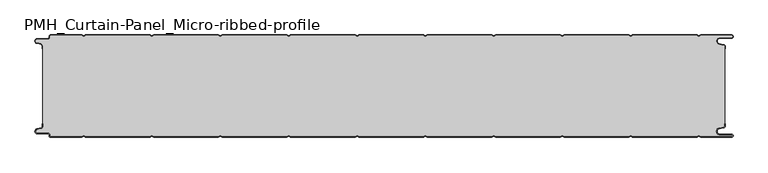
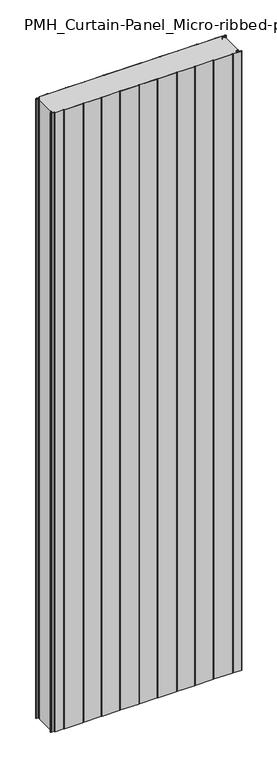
"""IFC4 building model written with IfcOpenShell, lengths in millimetres: plate geometry, PMH_Curtain-Panel_Micro-ribbed-profile : ACH_PMH_Acoustic-Sectioning-Panel_150M."""

from ifc_helpers import new_model, si_unit, point, frame_2d, origin, origin_with_axes, place, context, project, spatial, polyline, circle_curve, trimmed, segment, composite_curve, outline, extrude, source, transform, mapped, element, save


def pmh_curtain_panel_micro_ribbed_profile_c51ca6de(model_context):
    return source(origin(), model_context, "Body", "SweptSolid", [
        extrude(outline(composite_curve([segment(polyline([(-500.0, 15.878557), (-500.0, 20.0), (-499.2, 20.0), (-499.2, 15.878557)]), True, "CONTINUOUS"), segment(trimmed(circle_curve(frame_2d((-502.0, 15.878557)), 2.8), [point((-499.2, 15.878557))], [point((-501.370137, 13.1503208))], False, "CARTESIAN"), True, "CONTINUOUS"), segment(polyline([(-501.370137, 13.1503208), (-507.529863, 11.728236)]), True, "CONTINUOUS"), segment(trimmed(circle_curve(frame_2d((-506.9, 9.0)), 2.8), [point((-507.529863, 11.728236))], [point((-506.9, 6.2))], True, "CARTESIAN"), True, "CONTINUOUS"), segment(polyline([(-506.9, 6.2), (-491.4, 6.2)]), True, "CONTINUOUS"), segment(trimmed(circle_curve(frame_2d((-491.4, 3.4)), 2.8), [point((-491.4, 6.2))], [point((-488.6, 3.4))], False, "CARTESIAN"), True, "CONTINUOUS"), segment(polyline([(-488.6, 3.4), (-488.6, 2.0)]), True, "CONTINUOUS"), segment(trimmed(circle_curve(frame_2d((-487.4, 2.0)), 1.2), [point((-488.6, 2.0))], [point((-487.4, 0.8))], True, "CARTESIAN"), True, "CONTINUOUS"), segment(polyline([(-487.4, 0.8), (-442.3143588, 0.8), (-439.4, 2.482606), (-436.4856412, 0.8), (-342.3143588, 0.8), (-339.4, 2.482606), (-336.4856412, 0.8), (-242.3143588, 0.8), (-239.4, 2.482606), (-236.4856412, 0.8), (-142.3143588, 0.8), (-139.4, 2.482606), (-136.4856412, 0.8), (-42.3143588, 0.8), (-39.4, 2.482606), (-36.4856412, 0.8), (57.6856412, 0.8), (60.6, 2.482606), (63.5143588, 0.8), (157.6856412, 0.8), (160.6, 2.482606), (163.5143588, 0.8), (257.6856412, 0.8), (260.6, 2.482606), (263.5143588, 0.8), (357.6856412, 0.8), (360.6, 2.482606), (363.5143588, 0.8), (457.6856412, 0.8), (460.6, 2.482606), (463.5143588, 0.8), (508.1, 0.8)]), True, "CONTINUOUS"), segment(trimmed(circle_curve(frame_2d((508.1, 2.5)), 1.7), [point((508.1, 0.8))], [point((508.1, 4.2))], True, "CARTESIAN"), True, "CONTINUOUS"), segment(polyline([(508.1, 4.2), (491.1, 4.2)]), True, "CONTINUOUS"), segment(trimmed(circle_curve(frame_2d((491.1, 9.0)), 4.8), [point((491.1, 4.2))], [point((490.2664884, 13.7270771))], False, "CARTESIAN"), True, "CONTINUOUS"), segment(polyline([(490.2664884, 13.7270771), (496.7125669, 14.8636953)]), True, "CONTINUOUS"), segment(trimmed(circle_curve(frame_2d((496.4, 16.6363492)), 1.8), [point((496.7125669, 14.8636953))], [point((498.2, 16.6363492))], True, "CARTESIAN"), True, "CONTINUOUS"), segment(polyline([(498.2, 16.6363492), (498.2, 20.0), (499.0, 20.0), (499.0, 16.6363492)]), True, "CONTINUOUS"), segment(trimmed(circle_curve(frame_2d((496.4, 16.6363492)), 2.6), [point((499.0, 16.6363492))], [point((496.8514855, 14.0758491))], False, "CARTESIAN"), True, "CONTINUOUS"), segment(polyline([(496.8514855, 14.0758491), (490.405407, 12.939231)]), True, "CONTINUOUS"), segment(trimmed(circle_curve(frame_2d((491.1, 9.0)), 4.0), [point((490.405407, 12.939231))], [point((491.1, 5.0))], True, "CARTESIAN"), True, "CONTINUOUS"), segment(polyline([(491.1, 5.0), (508.1, 5.0)]), True, "CONTINUOUS"), segment(trimmed(circle_curve(frame_2d((508.1, 2.5)), 2.5), [point((508.1, 5.0))], [point((508.1, 0.0))], False, "CARTESIAN"), True, "CONTINUOUS"), segment(polyline([(508.1, 0.0), (463.2999995, 0.0), (460.6, 1.5588455), (457.9000005, 0.0), (363.2999995, 0.0), (360.6, 1.5588455), (357.9000005, 0.0), (263.2999995, 0.0), (260.6, 1.5588455), (257.9000005, 0.0), (163.2999995, 0.0), (160.6, 1.5588455), (157.9000005, 0.0), (63.2999995, 0.0), (60.6, 1.5588455), (57.9000005, 0.0), (-36.7000005, 0.0), (-39.4, 1.5588455), (-42.0999995, 0.0), (-136.7000005, 0.0), (-139.4, 1.5588455), (-142.0999995, 0.0), (-236.7000005, 0.0), (-239.4, 1.5588455), (-242.0999995, 0.0), (-336.7000005, 0.0), (-339.4, 1.5588455), (-342.0999995, 0.0), (-436.7000005, 0.0), (-439.4, 1.5588455), (-442.0999995, 0.0), (-487.4, 0.0)]), True, "CONTINUOUS"), segment(trimmed(circle_curve(frame_2d((-487.4, 2.0)), 2.0), [point((-487.4, 0.0))], [point((-489.4, 2.0))], False, "CARTESIAN"), True, "CONTINUOUS"), segment(polyline([(-489.4, 2.0), (-489.4, 3.4)]), True, "CONTINUOUS"), segment(trimmed(circle_curve(frame_2d((-491.4, 3.4)), 2.0), [point((-489.4, 3.4))], [point((-491.4, 5.4))], True, "CARTESIAN"), True, "CONTINUOUS"), segment(polyline([(-491.4, 5.4), (-506.9, 5.4)]), True, "CONTINUOUS"), segment(trimmed(circle_curve(frame_2d((-506.9, 9.0)), 3.6), [point((-506.9, 5.4))], [point((-507.7098239, 12.5077322))], False, "CARTESIAN"), True, "CONTINUOUS"), segment(polyline([(-507.7098239, 12.5077322), (-501.5500979, 13.929817)]), True, "CONTINUOUS"), segment(trimmed(circle_curve(frame_2d((-502.0, 15.878557)), 2.0), [point((-501.5500979, 13.929817))], [point((-500.0, 15.878557))], True, "CARTESIAN"), True, "CONTINUOUS")], self_intersect=False)), origin_with_axes(), (0.0, 0.0, 1.0), 3500.0),
        extrude(outline(composite_curve([segment(trimmed(circle_curve(frame_2d((-502.0, 134.1214426)), 2.8), [point((-499.2, 134.1214426))], [point((-501.370137, 136.8496788))], True, "CARTESIAN"), True, "CONTINUOUS"), segment(polyline([(-501.370137, 136.8496788), (-507.5298631, 138.2717638)]), True, "CONTINUOUS"), segment(trimmed(circle_curve(frame_2d((-506.9, 141.0)), 2.8), [point((-507.5298631, 138.2717638))], [point((-506.9, 143.8))], False, "CARTESIAN"), True, "CONTINUOUS"), segment(polyline([(-506.9, 143.8), (-491.4000001, 143.8)]), True, "CONTINUOUS"), segment(trimmed(circle_curve(frame_2d((-491.4000001, 146.6)), 2.8), [point((-491.4000001, 143.8))], [point((-488.6000001, 146.6))], True, "CARTESIAN"), True, "CONTINUOUS"), segment(polyline([(-488.6000001, 146.6), (-488.6000001, 148.0)]), True, "CONTINUOUS"), segment(trimmed(circle_curve(frame_2d((-487.4000001, 148.0)), 1.2), [point((-488.6000001, 148.0))], [point((-487.4000001, 149.2))], False, "CARTESIAN"), True, "CONTINUOUS"), segment(polyline([(-487.4000001, 149.2), (-442.3143589, 149.2), (-439.4000001, 147.517394), (-436.4856412, 149.2), (-342.3143589, 149.2), (-339.4000001, 147.517394), (-336.4856412, 149.2), (-242.3143589, 149.2), (-239.4000001, 147.517394), (-236.4856412, 149.2), (-142.3143589, 149.2), (-139.4000001, 147.517394), (-136.4856412, 149.2), (-42.3143589, 149.2), (-39.4000001, 147.517394), (-36.4856412, 149.2), (57.6856411, 149.2), (60.5999999, 147.517394), (63.5143588, 149.2), (157.6856411, 149.2), (160.5999999, 147.517394), (163.5143588, 149.2), (257.6856411, 149.2), (260.5999999, 147.517394), (263.5143588, 149.2), (357.6856411, 149.2), (360.5999999, 147.517394), (363.5143588, 149.2), (457.6856411, 149.2), (460.5999999, 147.517394), (463.5143588, 149.2), (508.0999999, 149.2)]), True, "CONTINUOUS"), segment(trimmed(circle_curve(frame_2d((508.0999999, 147.5)), 1.7), [point((508.0999999, 149.2))], [point((508.0999999, 145.8))], False, "CARTESIAN"), True, "CONTINUOUS"), segment(polyline([(508.0999999, 145.8), (491.0999999, 145.8)]), True, "CONTINUOUS"), segment(trimmed(circle_curve(frame_2d((491.0999999, 141.0)), 4.8), [point((491.0999999, 145.8))], [point((490.2664883, 136.2729229))], True, "CARTESIAN"), True, "CONTINUOUS"), segment(polyline([(490.2664883, 136.2729229), (496.7125668, 135.1363047)]), True, "CONTINUOUS"), segment(trimmed(circle_curve(frame_2d((496.3999999, 133.3636508)), 1.8), [point((496.7125668, 135.1363047))], [point((498.1999999, 133.3636508))], False, "CARTESIAN"), True, "CONTINUOUS"), segment(polyline([(498.1999999, 133.3636508), (498.1999999, 16.6363492)]), True, "CONTINUOUS"), segment(trimmed(circle_curve(frame_2d((496.3999999, 16.6363492)), 1.8), [point((498.1999999, 16.6363492))], [point((496.7125668, 14.8636953))], False, "CARTESIAN"), True, "CONTINUOUS"), segment(polyline([(496.7125668, 14.8636953), (490.2664883, 13.7270771)]), True, "CONTINUOUS"), segment(trimmed(circle_curve(frame_2d((491.0999999, 9.0)), 4.8), [point((490.2664883, 13.7270771))], [point((491.0999999, 4.2))], True, "CARTESIAN"), True, "CONTINUOUS"), segment(polyline([(491.0999999, 4.2), (508.0999999, 4.2)]), True, "CONTINUOUS"), segment(trimmed(circle_curve(frame_2d((508.0999999, 2.5)), 1.7), [point((508.0999999, 4.2))], [point((508.0999999, 0.8))], False, "CARTESIAN"), True, "CONTINUOUS"), segment(polyline([(508.0999999, 0.8), (463.5143588, 0.8), (460.5999999, 2.482606), (457.6856411, 0.8), (363.5143588, 0.8), (360.5999999, 2.482606), (357.6856411, 0.8), (263.5143588, 0.8), (260.5999999, 2.482606), (257.6856411, 0.8), (163.5143588, 0.8), (160.5999999, 2.482606), (157.6856411, 0.8), (63.5143588, 0.8), (60.5999999, 2.482606), (57.6856411, 0.8), (-36.4856412, 0.8), (-39.4000001, 2.482606), (-42.3143589, 0.8), (-136.4856412, 0.8), (-139.4000001, 2.482606), (-142.3143589, 0.8), (-236.4856412, 0.8), (-239.4000001, 2.482606), (-242.3143589, 0.8), (-336.4856412, 0.8), (-339.4000001, 2.482606), (-342.3143589, 0.8), (-436.4856412, 0.8), (-439.4000001, 2.482606), (-442.3143589, 0.8), (-487.4000001, 0.8)]), True, "CONTINUOUS"), segment(trimmed(circle_curve(frame_2d((-487.4000001, 2.0)), 1.2), [point((-487.4000001, 0.8))], [point((-488.6000001, 2.0))], False, "CARTESIAN"), True, "CONTINUOUS"), segment(polyline([(-488.6000001, 2.0), (-488.6000001, 3.4)]), True, "CONTINUOUS"), segment(trimmed(circle_curve(frame_2d((-491.4000001, 3.4)), 2.8), [point((-488.6000001, 3.4))], [point((-491.4000001, 6.2))], True, "CARTESIAN"), True, "CONTINUOUS"), segment(polyline([(-491.4000001, 6.2), (-506.9, 6.2)]), True, "CONTINUOUS"), segment(trimmed(circle_curve(frame_2d((-506.9, 9.0)), 2.8), [point((-506.9, 6.2))], [point((-507.5298631, 11.7282362))], False, "CARTESIAN"), True, "CONTINUOUS"), segment(polyline([(-507.5298631, 11.7282362), (-501.370137, 13.1503212)]), True, "CONTINUOUS"), segment(trimmed(circle_curve(frame_2d((-502.0, 15.8785573)), 2.8), [point((-501.370137, 13.1503212))], [point((-499.2, 15.8785573))], True, "CARTESIAN"), True, "CONTINUOUS"), segment(polyline([(-499.2, 15.8785573), (-499.2, 134.1214426)]), True, "CONTINUOUS")], self_intersect=False)), origin_with_axes(), (0.0, 0.0, 1.0), 3500.0),
        extrude(outline(composite_curve([segment(trimmed(circle_curve(frame_2d((-502.0, 134.121443)), 2.0), [point((-500.0, 134.121443))], [point((-501.5500978, 136.0701831))], True, "CARTESIAN"), True, "CONTINUOUS"), segment(polyline([(-501.5500978, 136.0701831), (-507.7098239, 137.492268)]), True, "CONTINUOUS"), segment(trimmed(circle_curve(frame_2d((-506.9, 141.0)), 3.6), [point((-507.7098239, 137.492268))], [point((-506.9, 144.6))], False, "CARTESIAN"), True, "CONTINUOUS"), segment(polyline([(-506.9, 144.6), (-491.4, 144.6)]), True, "CONTINUOUS"), segment(trimmed(circle_curve(frame_2d((-491.4, 146.6)), 2.0), [point((-491.4, 144.6))], [point((-489.4, 146.6))], True, "CARTESIAN"), True, "CONTINUOUS"), segment(polyline([(-489.4, 146.6), (-489.4, 148.0)]), True, "CONTINUOUS"), segment(trimmed(circle_curve(frame_2d((-487.4, 148.0)), 2.0), [point((-489.4, 148.0))], [point((-487.4, 150.0))], False, "CARTESIAN"), True, "CONTINUOUS"), segment(polyline([(-487.4, 150.0), (-442.0999995, 150.0), (-439.4, 148.4411545), (-436.7000005, 150.0), (-342.0999995, 150.0), (-339.4, 148.4411545), (-336.7000005, 150.0), (-242.0999995, 150.0), (-239.4, 148.4411545), (-236.7000005, 150.0), (-142.0999995, 150.0), (-139.4, 148.4411545), (-136.7000005, 150.0), (-42.0999995, 150.0), (-39.4, 148.4411545), (-36.7000005, 150.0), (57.9000005, 150.0), (60.6, 148.4411545), (63.2999995, 150.0), (157.9000005, 150.0), (160.6, 148.4411545), (163.2999995, 150.0), (257.9000005, 150.0), (260.6, 148.4411545), (263.2999995, 150.0), (357.9000005, 150.0), (360.6, 148.4411545), (363.2999995, 150.0), (457.9000005, 150.0), (460.6, 148.4411545), (463.2999995, 150.0), (508.1, 150.0)]), True, "CONTINUOUS"), segment(trimmed(circle_curve(frame_2d((508.1, 147.5)), 2.5), [point((508.1, 150.0))], [point((508.1, 145.0))], False, "CARTESIAN"), True, "CONTINUOUS"), segment(polyline([(508.1, 145.0), (491.1, 145.0)]), True, "CONTINUOUS"), segment(trimmed(circle_curve(frame_2d((491.1, 141.0)), 4.0), [point((491.1, 145.0))], [point((490.405407, 137.060769))], True, "CARTESIAN"), True, "CONTINUOUS"), segment(polyline([(490.405407, 137.060769), (496.8514855, 135.9241509)]), True, "CONTINUOUS"), segment(trimmed(circle_curve(frame_2d((496.4, 133.3636508)), 2.6), [point((496.8514855, 135.9241509))], [point((499.0, 133.3636508))], False, "CARTESIAN"), True, "CONTINUOUS"), segment(polyline([(499.0, 133.3636508), (499.0, 130.0), (498.2, 130.0), (498.2, 133.3636508)]), True, "CONTINUOUS"), segment(trimmed(circle_curve(frame_2d((496.4, 133.3636508)), 1.8), [point((498.2, 133.3636508))], [point((496.7125669, 135.1363047))], True, "CARTESIAN"), True, "CONTINUOUS"), segment(polyline([(496.7125669, 135.1363047), (490.2664884, 136.2729228)]), True, "CONTINUOUS"), segment(trimmed(circle_curve(frame_2d((491.1, 141.0)), 4.8), [point((490.2664884, 136.2729228))], [point((491.1, 145.8))], False, "CARTESIAN"), True, "CONTINUOUS"), segment(polyline([(491.1, 145.8), (508.1, 145.8)]), True, "CONTINUOUS"), segment(trimmed(circle_curve(frame_2d((508.1, 147.5)), 1.7), [point((508.1, 145.8))], [point((508.1, 149.2))], True, "CARTESIAN"), True, "CONTINUOUS"), segment(polyline([(508.1, 149.2), (463.5143588, 149.2), (460.6, 147.517394), (457.6856412, 149.2), (363.5143588, 149.2), (360.6, 147.517394), (357.6856412, 149.2), (263.5143588, 149.2), (260.6, 147.517394), (257.6856412, 149.2), (163.5143588, 149.2), (160.6, 147.517394), (157.6856412, 149.2), (63.5143588, 149.2), (60.6, 147.517394), (57.6856412, 149.2), (-36.4856412, 149.2), (-39.4, 147.517394), (-42.3143588, 149.2), (-136.4856412, 149.2), (-139.4, 147.517394), (-142.3143588, 149.2), (-236.4856412, 149.2), (-239.4, 147.517394), (-242.3143588, 149.2), (-336.4856412, 149.2), (-339.4, 147.517394), (-342.3143588, 149.2), (-436.4856412, 149.2), (-439.4, 147.517394), (-442.3143588, 149.2), (-487.4, 149.2)]), True, "CONTINUOUS"), segment(trimmed(circle_curve(frame_2d((-487.4, 148.0)), 1.2), [point((-487.4, 149.2))], [point((-488.6, 148.0))], True, "CARTESIAN"), True, "CONTINUOUS"), segment(polyline([(-488.6, 148.0), (-488.6, 146.6)]), True, "CONTINUOUS"), segment(trimmed(circle_curve(frame_2d((-491.4, 146.6)), 2.8), [point((-488.6, 146.6))], [point((-491.4, 143.8))], False, "CARTESIAN"), True, "CONTINUOUS"), segment(polyline([(-491.4, 143.8), (-506.9, 143.8)]), True, "CONTINUOUS"), segment(trimmed(circle_curve(frame_2d((-506.9, 141.0)), 2.8), [point((-506.9, 143.8))], [point((-507.529863, 138.2717638))], True, "CARTESIAN"), True, "CONTINUOUS"), segment(polyline([(-507.529863, 138.2717638), (-501.370137, 136.849679)]), True, "CONTINUOUS"), segment(trimmed(circle_curve(frame_2d((-502.0, 134.121443)), 2.8), [point((-501.370137, 136.849679))], [point((-499.2, 134.121443))], False, "CARTESIAN"), True, "CONTINUOUS"), segment(polyline([(-499.2, 134.121443), (-499.2, 130.0), (-500.0, 130.0), (-500.0, 134.121443)]), True, "CONTINUOUS")], self_intersect=False)), origin_with_axes(), (0.0, 0.0, 1.0), 3500.0),
    ])


if __name__ == "__main__":
    model = new_model("IFC4")
    model_context = context("Model", 3, world=origin())
    ifc_project = project(units=[si_unit("LENGTHUNIT", "METRE", prefix="MILLI")], contexts=[model_context])
    site = spatial("IfcSite", under=ifc_project)
    building = spatial("IfcBuilding", under=site)
    placement = place(None, origin())
    pmh_curtain_panel_micro_ribbed_profile_shape = pmh_curtain_panel_micro_ribbed_profile_c51ca6de(model_context)
    element("IfcPlate", 1, ObjectType="PMH_Curtain-Panel_Micro-ribbed-profile : ACH_PMH_Acoustic-Sectioning-Panel_150M", at=placement, inside=building, context=model_context, shape_type="MappedRepresentation", body=[
        mapped(pmh_curtain_panel_micro_ribbed_profile_shape, transform((0.0, 0.0, 0.0), x_axis=(1.0, 0.0, 0.0), y_axis=(0.0, 1.0, 0.0), z_axis=(0.0, 0.0, 1.0))),
    ])
    save(model, "model.ifc")
